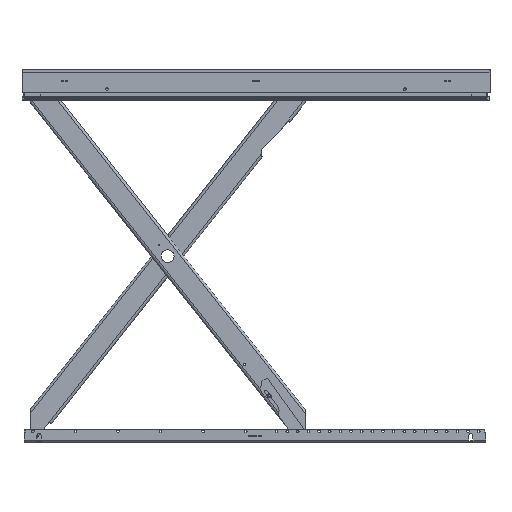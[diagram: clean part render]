
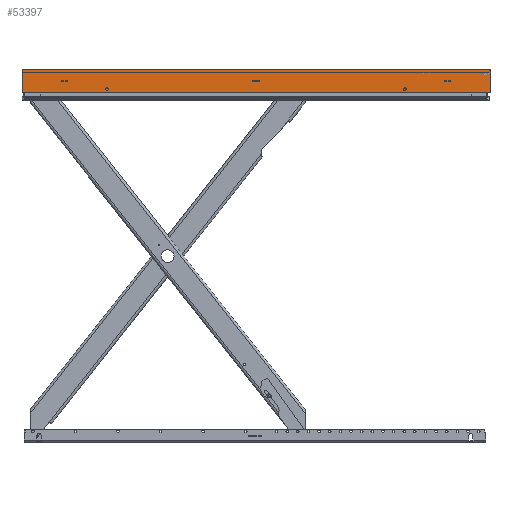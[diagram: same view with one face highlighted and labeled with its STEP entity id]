
A CAD part, left-side view. The second image highlights one B-rep face of the part: STEP entity #53397.
In plain terms, the highlighted planar face has unit normal (-1, 0, 0) as drawn and (0, 1, 0) by its records, which use the part's own axes.
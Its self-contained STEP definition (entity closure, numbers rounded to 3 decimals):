
#4237=PLANE('',#58180);
#8859=LINE('',#96629,#13489);
#8864=LINE('',#96640,#13494);
#8866=LINE('',#96643,#13496);
#8867=LINE('',#96644,#13497);
#13489=VECTOR('',#72340,106.);
#13494=VECTOR('',#72349,106.);
#13496=VECTOR('',#72353,2200.);
#13497=VECTOR('',#72354,2200.);
#16763=FACE_OUTER_BOUND('',#20029,.T.);
#20029=EDGE_LOOP('',(#49638,#49639,#49640,#49641));
#27187=VERTEX_POINT('',#96622);
#27190=VERTEX_POINT('',#96627);
#27193=VERTEX_POINT('',#96637);
#27194=VERTEX_POINT('',#96639);
#34667=EDGE_CURVE('',#27187,#27190,#8859,.T.);
#34672=EDGE_CURVE('',#27194,#27193,#8864,.T.);
#34674=EDGE_CURVE('',#27193,#27187,#8866,.T.);
#34675=EDGE_CURVE('',#27190,#27194,#8867,.T.);
#49638=ORIENTED_EDGE('',*,*,#34674,.T.);
#49639=ORIENTED_EDGE('',*,*,#34667,.T.);
#49640=ORIENTED_EDGE('',*,*,#34675,.T.);
#49641=ORIENTED_EDGE('',*,*,#34672,.T.);
#53397=ADVANCED_FACE('',(#16763),#4237,.T.);
#58180=AXIS2_PLACEMENT_3D('',#96642,#72351,#72352);
#72340=DIRECTION('',(0.,0.,-1.));
#72349=DIRECTION('',(0.,0.,1.));
#72351=DIRECTION('center_axis',(0.,1.,0.));
#72352=DIRECTION('ref_axis',(0.,0.,1.));
#72353=DIRECTION('',(1.,0.,0.));
#72354=DIRECTION('',(-1.,0.,0.));
#96622=CARTESIAN_POINT('',(1100.,600.,53.));
#96627=CARTESIAN_POINT('',(1100.,600.,-53.));
#96629=CARTESIAN_POINT('',(1100.,600.,0.));
#96637=CARTESIAN_POINT('',(-1100.,600.,53.));
#96639=CARTESIAN_POINT('',(-1100.,600.,-53.));
#96640=CARTESIAN_POINT('',(-1100.,600.,0.));
#96642=CARTESIAN_POINT('Origin',(-1100.,600.,0.));
#96643=CARTESIAN_POINT('',(-1100.,600.,53.));
#96644=CARTESIAN_POINT('',(-1100.,600.,-53.));
